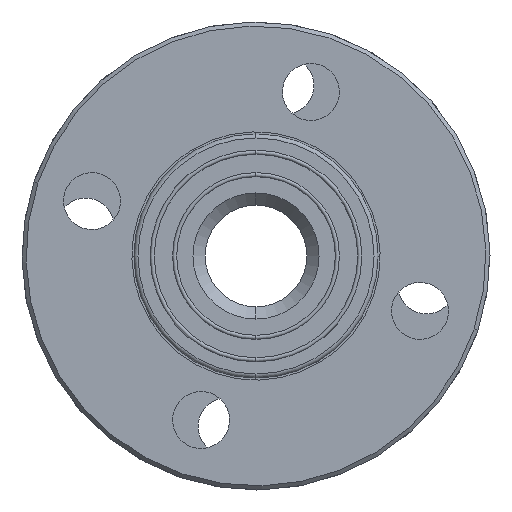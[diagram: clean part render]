
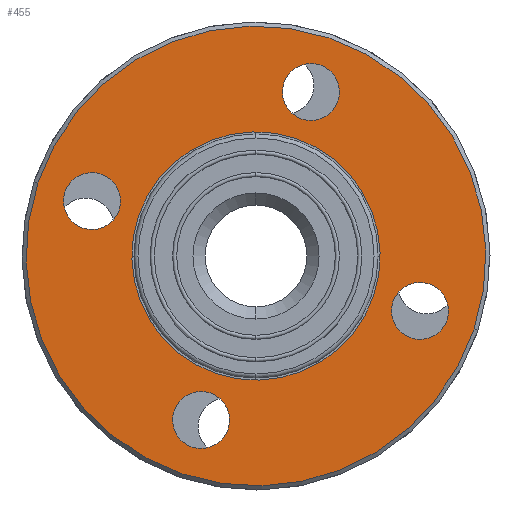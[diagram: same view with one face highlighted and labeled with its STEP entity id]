
A CAD part, left-side view. The second image highlights one B-rep face of the part: STEP entity #455.
In plain terms, the highlighted planar face has unit normal (-1, 0, 0) as drawn and (1, 0, 0) by its records, which use the part's own axes.
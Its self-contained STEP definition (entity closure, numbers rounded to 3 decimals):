
#15 = ORIENTED_EDGE ( 'NONE', *, *, #1876, .F. ) ;
#25 = VERTEX_POINT ( 'NONE', #1824 ) ;
#85 = CARTESIAN_POINT ( 'NONE',  ( 12., 0., -56.5 ) ) ;
#90 = CARTESIAN_POINT ( 'NONE',  ( 12., -42.5, 0. ) ) ;
#102 = DIRECTION ( 'NONE',  ( -1., 0., 0. ) ) ;
#104 = DIRECTION ( 'NONE',  ( -1., 0., 0. ) ) ;
#127 = CIRCLE ( 'NONE', #635, 7. ) ;
#171 = EDGE_LOOP ( 'NONE', ( #15, #2142 ) ) ;
#200 = VERTEX_POINT ( 'NONE', #1664 ) ;
#211 = AXIS2_PLACEMENT_3D ( 'NONE', #823, #1261, #2605 ) ;
#225 = ORIENTED_EDGE ( 'NONE', *, *, #689, .T. ) ;
#287 = AXIS2_PLACEMENT_3D ( 'NONE', #1675, #1654, #1234 ) ;
#302 = AXIS2_PLACEMENT_3D ( 'NONE', #1724, #1472, #843 ) ;
#314 = CARTESIAN_POINT ( 'NONE',  ( 12., 0., 56.5 ) ) ;
#329 = CARTESIAN_POINT ( 'NONE',  ( 12., 0., -35.5 ) ) ;
#333 = CARTESIAN_POINT ( 'NONE',  ( 12., 0., 0. ) ) ;
#379 = VERTEX_POINT ( 'NONE', #2344 ) ;
#413 = CARTESIAN_POINT ( 'NONE',  ( 12., 0., 42.5 ) ) ;
#455 = ADVANCED_FACE ( 'NONE', ( #1243, #806, #1165, #2755, #2218, #554 ), #510, .F. ) ;
#461 = EDGE_CURVE ( 'NONE', #999, #1072, #2901, .T. ) ;
#470 = CARTESIAN_POINT ( 'NONE',  ( 12., 0., -30.5 ) ) ;
#510 = PLANE ( 'NONE',  #287 ) ;
#554 = FACE_BOUND ( 'NONE', #2401, .T. ) ;
#592 = DIRECTION ( 'NONE',  ( 0., 0., 1. ) ) ;
#610 = VERTEX_POINT ( 'NONE', #611 ) ;
#611 = CARTESIAN_POINT ( 'NONE',  ( 12., 42.5, -7. ) ) ;
#634 = CARTESIAN_POINT ( 'NONE',  ( 12., 0., 0. ) ) ;
#635 = AXIS2_PLACEMENT_3D ( 'NONE', #857, #2199, #864 ) ;
#661 = DIRECTION ( 'NONE',  ( 0., 0., 1. ) ) ;
#689 = EDGE_CURVE ( 'NONE', #1922, #379, #1976, .T. ) ;
#744 = CIRCLE ( 'NONE', #211, 7. ) ;
#748 = EDGE_CURVE ( 'NONE', #610, #1265, #127, .T. ) ;
#749 = DIRECTION ( 'NONE',  ( -1., 0., 0. ) ) ;
#763 = DIRECTION ( 'NONE',  ( -1., 0., 0. ) ) ;
#789 = CARTESIAN_POINT ( 'NONE',  ( 12., 0., 0. ) ) ;
#806 = FACE_BOUND ( 'NONE', #1022, .T. ) ;
#823 = CARTESIAN_POINT ( 'NONE',  ( 12., 0., -42.5 ) ) ;
#834 = EDGE_LOOP ( 'NONE', ( #2438, #1974 ) ) ;
#843 = DIRECTION ( 'NONE',  ( 0., 0., 1. ) ) ;
#857 = CARTESIAN_POINT ( 'NONE',  ( 12., 42.5, 0. ) ) ;
#864 = DIRECTION ( 'NONE',  ( 0., 0., 1. ) ) ;
#868 = CARTESIAN_POINT ( 'NONE',  ( 12., -42.5, -7. ) ) ;
#884 = DIRECTION ( 'NONE',  ( 0., 0., 1. ) ) ;
#889 = AXIS2_PLACEMENT_3D ( 'NONE', #2491, #1589, #1834 ) ;
#991 = ORIENTED_EDGE ( 'NONE', *, *, #1393, .T. ) ;
#999 = VERTEX_POINT ( 'NONE', #85 ) ;
#1022 = EDGE_LOOP ( 'NONE', ( #2322, #2248 ) ) ;
#1072 = VERTEX_POINT ( 'NONE', #314 ) ;
#1082 = DIRECTION ( 'NONE',  ( -1., 0., 0. ) ) ;
#1156 = ORIENTED_EDGE ( 'NONE', *, *, #1685, .T. ) ;
#1165 = FACE_BOUND ( 'NONE', #2805, .T. ) ;
#1190 = DIRECTION ( 'NONE',  ( 0., 0., 1. ) ) ;
#1223 = DIRECTION ( 'NONE',  ( 0., 0., 1. ) ) ;
#1234 = DIRECTION ( 'NONE',  ( 0., 0., 1. ) ) ;
#1236 = EDGE_CURVE ( 'NONE', #25, #1951, #1990, .T. ) ;
#1240 = VERTEX_POINT ( 'NONE', #329 ) ;
#1243 = FACE_BOUND ( 'NONE', #1923, .T. ) ;
#1261 = DIRECTION ( 'NONE',  ( -1., 0., 0. ) ) ;
#1265 = VERTEX_POINT ( 'NONE', #2871 ) ;
#1272 = VERTEX_POINT ( 'NONE', #2843 ) ;
#1308 = EDGE_CURVE ( 'NONE', #1272, #1240, #2520, .T. ) ;
#1393 = EDGE_CURVE ( 'NONE', #1645, #200, #2407, .T. ) ;
#1416 = CIRCLE ( 'NONE', #302, 56.5 ) ;
#1432 = CARTESIAN_POINT ( 'NONE',  ( 12., -42.5, 0. ) ) ;
#1472 = DIRECTION ( 'NONE',  ( -1., 0., 0. ) ) ;
#1589 = DIRECTION ( 'NONE',  ( -1., 0., 0. ) ) ;
#1645 = VERTEX_POINT ( 'NONE', #470 ) ;
#1654 = DIRECTION ( 'NONE',  ( -1., 0., 0. ) ) ;
#1659 = EDGE_CURVE ( 'NONE', #379, #1922, #1808, .T. ) ;
#1664 = CARTESIAN_POINT ( 'NONE',  ( 12., 0., 30.5 ) ) ;
#1675 = CARTESIAN_POINT ( 'NONE',  ( 12., 56.5, 0. ) ) ;
#1685 = EDGE_CURVE ( 'NONE', #1240, #1272, #744, .T. ) ;
#1724 = CARTESIAN_POINT ( 'NONE',  ( 12., 0., 0. ) ) ;
#1725 = ORIENTED_EDGE ( 'NONE', *, *, #2285, .T. ) ;
#1733 = ORIENTED_EDGE ( 'NONE', *, *, #1308, .T. ) ;
#1753 = AXIS2_PLACEMENT_3D ( 'NONE', #1432, #1912, #2136 ) ;
#1789 = AXIS2_PLACEMENT_3D ( 'NONE', #634, #1082, #661 ) ;
#1808 = CIRCLE ( 'NONE', #2821, 7. ) ;
#1824 = CARTESIAN_POINT ( 'NONE',  ( 12., -42.5, 7. ) ) ;
#1834 = DIRECTION ( 'NONE',  ( 0., 0., 1. ) ) ;
#1846 = CIRCLE ( 'NONE', #1898, 30.5 ) ;
#1876 = EDGE_CURVE ( 'NONE', #1072, #999, #1416, .T. ) ;
#1898 = AXIS2_PLACEMENT_3D ( 'NONE', #789, #749, #2765 ) ;
#1912 = DIRECTION ( 'NONE',  ( -1., 0., 0. ) ) ;
#1922 = VERTEX_POINT ( 'NONE', #2169 ) ;
#1923 = EDGE_LOOP ( 'NONE', ( #1156, #1733 ) ) ;
#1949 = AXIS2_PLACEMENT_3D ( 'NONE', #2370, #2648, #592 ) ;
#1951 = VERTEX_POINT ( 'NONE', #868 ) ;
#1974 = ORIENTED_EDGE ( 'NONE', *, *, #748, .T. ) ;
#1976 = CIRCLE ( 'NONE', #2806, 7. ) ;
#1990 = CIRCLE ( 'NONE', #1753, 7. ) ;
#2062 = CIRCLE ( 'NONE', #2242, 7. ) ;
#2131 = DIRECTION ( 'NONE',  ( 0., 0., 1. ) ) ;
#2136 = DIRECTION ( 'NONE',  ( 0., 0., 1. ) ) ;
#2142 = ORIENTED_EDGE ( 'NONE', *, *, #461, .F. ) ;
#2150 = CARTESIAN_POINT ( 'NONE',  ( 12., 0., 42.5 ) ) ;
#2169 = CARTESIAN_POINT ( 'NONE',  ( 12., 0., 35.5 ) ) ;
#2199 = DIRECTION ( 'NONE',  ( -1., 0., 0. ) ) ;
#2218 = FACE_OUTER_BOUND ( 'NONE', #171, .T. ) ;
#2242 = AXIS2_PLACEMENT_3D ( 'NONE', #90, #104, #2131 ) ;
#2248 = ORIENTED_EDGE ( 'NONE', *, *, #2305, .T. ) ;
#2285 = EDGE_CURVE ( 'NONE', #200, #1645, #1846, .T. ) ;
#2305 = EDGE_CURVE ( 'NONE', #1951, #25, #2062, .T. ) ;
#2322 = ORIENTED_EDGE ( 'NONE', *, *, #1236, .T. ) ;
#2329 = ORIENTED_EDGE ( 'NONE', *, *, #1659, .T. ) ;
#2344 = CARTESIAN_POINT ( 'NONE',  ( 12., 0., 49.5 ) ) ;
#2370 = CARTESIAN_POINT ( 'NONE',  ( 12., 0., -42.5 ) ) ;
#2401 = EDGE_LOOP ( 'NONE', ( #1725, #991 ) ) ;
#2407 = CIRCLE ( 'NONE', #1789, 30.5 ) ;
#2438 = ORIENTED_EDGE ( 'NONE', *, *, #2887, .T. ) ;
#2491 = CARTESIAN_POINT ( 'NONE',  ( 12., 42.5, 0. ) ) ;
#2520 = CIRCLE ( 'NONE', #1949, 7. ) ;
#2605 = DIRECTION ( 'NONE',  ( 0., 0., 1. ) ) ;
#2648 = DIRECTION ( 'NONE',  ( -1., 0., 0. ) ) ;
#2654 = DIRECTION ( 'NONE',  ( -1., 0., 0. ) ) ;
#2755 = FACE_BOUND ( 'NONE', #834, .T. ) ;
#2765 = DIRECTION ( 'NONE',  ( 0., 0., 1. ) ) ;
#2805 = EDGE_LOOP ( 'NONE', ( #2329, #225 ) ) ;
#2806 = AXIS2_PLACEMENT_3D ( 'NONE', #413, #2654, #884 ) ;
#2821 = AXIS2_PLACEMENT_3D ( 'NONE', #2150, #763, #1190 ) ;
#2843 = CARTESIAN_POINT ( 'NONE',  ( 12., 0., -49.5 ) ) ;
#2854 = CIRCLE ( 'NONE', #889, 7. ) ;
#2871 = CARTESIAN_POINT ( 'NONE',  ( 12., 42.5, 7. ) ) ;
#2887 = EDGE_CURVE ( 'NONE', #1265, #610, #2854, .T. ) ;
#2898 = AXIS2_PLACEMENT_3D ( 'NONE', #333, #102, #1223 ) ;
#2901 = CIRCLE ( 'NONE', #2898, 56.5 ) ;
